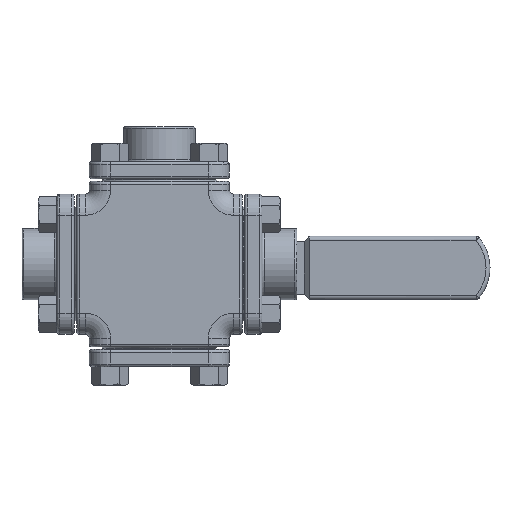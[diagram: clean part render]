
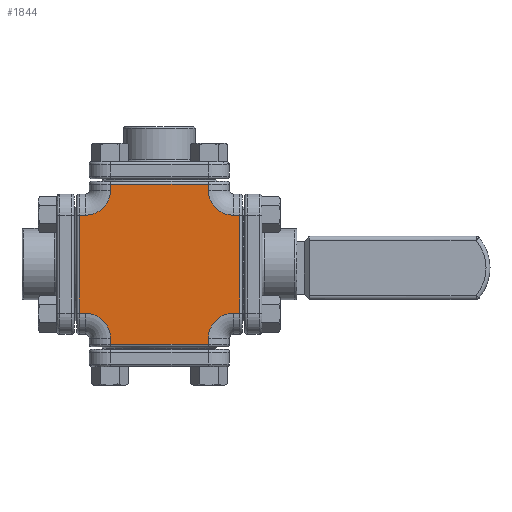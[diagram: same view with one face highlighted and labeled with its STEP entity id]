
A CAD part, front view. The second image highlights one B-rep face of the part: STEP entity #1844.
In plain terms, the highlighted planar face has unit normal (0, -1, 0).
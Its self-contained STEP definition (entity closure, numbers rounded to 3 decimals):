
#1790 = ORIENTED_EDGE ( 'NONE', *, *, #1791, .T. ) ;
#1791 = EDGE_CURVE ( 'NONE', #1879, #1792, #6927, .T. ) ;
#1792 = VERTEX_POINT ( 'NONE', #6923 ) ;
#1793 = ORIENTED_EDGE ( 'NONE', *, *, #1794, .T. ) ;
#1794 = EDGE_CURVE ( 'NONE', #1792, #1795, #6922, .T. ) ;
#1795 = VERTEX_POINT ( 'NONE', #6918 ) ;
#1796 = ORIENTED_EDGE ( 'NONE', *, *, #1797, .T. ) ;
#1797 = EDGE_CURVE ( 'NONE', #1795, #1846, #6917, .T. ) ;
#1800 = VERTEX_POINT ( 'NONE', #6910 ) ;
#1803 = ORIENTED_EDGE ( 'NONE', *, *, #1804, .T. ) ;
#1804 = EDGE_CURVE ( 'NONE', #1821, #1805, #6966, .T. ) ;
#1805 = VERTEX_POINT ( 'NONE', #6961 ) ;
#1807 = ORIENTED_EDGE ( 'NONE', *, *, #1808, .T. ) ;
#1808 = EDGE_CURVE ( 'NONE', #1852, #1809, #6955, .T. ) ;
#1809 = VERTEX_POINT ( 'NONE', #6951 ) ;
#1810 = ORIENTED_EDGE ( 'NONE', *, *, #1811, .T. ) ;
#1811 = EDGE_CURVE ( 'NONE', #1809, #1812, #6950, .T. ) ;
#1812 = VERTEX_POINT ( 'NONE', #6945 ) ;
#1813 = ORIENTED_EDGE ( 'NONE', *, *, #1814, .T. ) ;
#1814 = EDGE_CURVE ( 'NONE', #1812, #1815, #6944, .T. ) ;
#1815 = VERTEX_POINT ( 'NONE', #6939 ) ;
#1816 = ORIENTED_EDGE ( 'NONE', *, *, #1817, .T. ) ;
#1817 = EDGE_CURVE ( 'NONE', #1815, #1818, #6940, .T. ) ;
#1818 = VERTEX_POINT ( 'NONE', #6997 ) ;
#1819 = ORIENTED_EDGE ( 'NONE', *, *, #1820, .T. ) ;
#1820 = EDGE_CURVE ( 'NONE', #1818, #1821, #6996, .T. ) ;
#1821 = VERTEX_POINT ( 'NONE', #6992 ) ;
#1831 = VERTEX_POINT ( 'NONE', #6980 ) ;
#1832 = VERTEX_POINT ( 'NONE', #6979 ) ;
#1844 = ADVANCED_FACE ( 'NONE', ( #7020 ), #7019, .F. ) ;
#1845 = ORIENTED_EDGE ( 'NONE', *, *, #1848, .T. ) ;
#1846 = VERTEX_POINT ( 'NONE', #7014 ) ;
#1847 = EDGE_LOOP ( 'NONE', ( #1845, #1857, #1859, #1861, #1863, #1850, #1807, #1810, #1813, #1816, #1819, #1803, #1877, #1790, #1793, #1796 ) ) ;
#1848 = EDGE_CURVE ( 'NONE', #1846, #1831, #7013, .T. ) ;
#1849 = EDGE_CURVE ( 'NONE', #1865, #1864, #7009, .T. ) ;
#1850 = ORIENTED_EDGE ( 'NONE', *, *, #1851, .T. ) ;
#1851 = EDGE_CURVE ( 'NONE', #1864, #1852, #7005, .T. ) ;
#1852 = VERTEX_POINT ( 'NONE', #7001 ) ;
#1857 = ORIENTED_EDGE ( 'NONE', *, *, #1858, .T. ) ;
#1858 = EDGE_CURVE ( 'NONE', #1831, #1800, #7053, .T. ) ;
#1859 = ORIENTED_EDGE ( 'NONE', *, *, #1860, .T. ) ;
#1860 = EDGE_CURVE ( 'NONE', #1800, #1832, #7049, .T. ) ;
#1861 = ORIENTED_EDGE ( 'NONE', *, *, #1862, .T. ) ;
#1862 = EDGE_CURVE ( 'NONE', #1832, #1865, #7045, .T. ) ;
#1863 = ORIENTED_EDGE ( 'NONE', *, *, #1849, .T. ) ;
#1864 = VERTEX_POINT ( 'NONE', #7040 ) ;
#1865 = VERTEX_POINT ( 'NONE', #7039 ) ;
#1877 = ORIENTED_EDGE ( 'NONE', *, *, #1878, .T. ) ;
#1878 = EDGE_CURVE ( 'NONE', #1805, #1879, #7085, .T. ) ;
#1879 = VERTEX_POINT ( 'NONE', #7081 ) ;
#6910 = CARTESIAN_POINT ( 'NONE',  ( 30.3, -26.5, 18.5 ) ) ;
#6913 = DIRECTION ( 'NONE',  ( 0., 0., 1. ) ) ;
#6914 = DIRECTION ( 'NONE',  ( 0., 1., 0. ) ) ;
#6915 = CARTESIAN_POINT ( 'NONE',  ( 28., -26.5, -28. ) ) ;
#6916 = AXIS2_PLACEMENT_3D ( 'NONE', #6915, #6914, #6913 ) ;
#6917 = CIRCLE ( 'NONE', #6916, 9.5 ) ;
#6918 = CARTESIAN_POINT ( 'NONE',  ( 18.5, -26.5, -28. ) ) ;
#6919 = DIRECTION ( 'NONE',  ( 0., 0., 1. ) ) ;
#6920 = VECTOR ( 'NONE', #6919, 1000. ) ;
#6921 = CARTESIAN_POINT ( 'NONE',  ( 18.5, -26.5, 0. ) ) ;
#6922 = LINE ( 'NONE', #6921, #6920 ) ;
#6923 = CARTESIAN_POINT ( 'NONE',  ( 18.5, -26.5, -30.3 ) ) ;
#6924 = DIRECTION ( 'NONE',  ( 1., 0., 0. ) ) ;
#6925 = VECTOR ( 'NONE', #6924, 1000. ) ;
#6926 = CARTESIAN_POINT ( 'NONE',  ( -69.001, -26.5, -30.3 ) ) ;
#6927 = LINE ( 'NONE', #6926, #6925 ) ;
#6939 = CARTESIAN_POINT ( 'NONE',  ( -30.3, -26.5, 18.5 ) ) ;
#6940 = LINE ( 'NONE', #8036, #6999 ) ;
#6941 = DIRECTION ( 'NONE',  ( -1., 0., 0. ) ) ;
#6942 = VECTOR ( 'NONE', #6941, 1000. ) ;
#6943 = CARTESIAN_POINT ( 'NONE',  ( -31.3, -26.5, 18.5 ) ) ;
#6944 = LINE ( 'NONE', #6943, #6942 ) ;
#6945 = CARTESIAN_POINT ( 'NONE',  ( -28., -26.5, 18.5 ) ) ;
#6946 = DIRECTION ( 'NONE',  ( 0., 0., 1. ) ) ;
#6947 = DIRECTION ( 'NONE',  ( 0., 1., 0. ) ) ;
#6948 = CARTESIAN_POINT ( 'NONE',  ( -28., -26.5, 28. ) ) ;
#6949 = AXIS2_PLACEMENT_3D ( 'NONE', #6948, #6947, #6946 ) ;
#6950 = CIRCLE ( 'NONE', #6949, 9.5 ) ;
#6951 = CARTESIAN_POINT ( 'NONE',  ( -18.5, -26.5, 28. ) ) ;
#6952 = DIRECTION ( 'NONE',  ( 0., 0., -1. ) ) ;
#6953 = VECTOR ( 'NONE', #6952, 1000. ) ;
#6954 = CARTESIAN_POINT ( 'NONE',  ( -18.5, -26.5, 28. ) ) ;
#6955 = LINE ( 'NONE', #6954, #6953 ) ;
#6961 = CARTESIAN_POINT ( 'NONE',  ( -18.5, -26.5, -28. ) ) ;
#6962 = DIRECTION ( 'NONE',  ( 0., 0., 1. ) ) ;
#6963 = DIRECTION ( 'NONE',  ( 0., 1., 0. ) ) ;
#6964 = CARTESIAN_POINT ( 'NONE',  ( -28., -26.5, -28. ) ) ;
#6965 = AXIS2_PLACEMENT_3D ( 'NONE', #6964, #6963, #6962 ) ;
#6966 = CIRCLE ( 'NONE', #6965, 9.5 ) ;
#6979 = CARTESIAN_POINT ( 'NONE',  ( 28., -26.5, 18.5 ) ) ;
#6980 = CARTESIAN_POINT ( 'NONE',  ( 30.3, -26.5, -18.5 ) ) ;
#6992 = CARTESIAN_POINT ( 'NONE',  ( -28., -26.5, -18.5 ) ) ;
#6993 = DIRECTION ( 'NONE',  ( 1., 0., 0. ) ) ;
#6994 = VECTOR ( 'NONE', #6993, 1000. ) ;
#6995 = CARTESIAN_POINT ( 'NONE',  ( -69.001, -26.5, -18.5 ) ) ;
#6996 = LINE ( 'NONE', #6995, #6994 ) ;
#6997 = CARTESIAN_POINT ( 'NONE',  ( -30.3, -26.5, -18.5 ) ) ;
#6998 = DIRECTION ( 'NONE',  ( 0., 0., -1. ) ) ;
#6999 = VECTOR ( 'NONE', #6998, 1000. ) ;
#7001 = CARTESIAN_POINT ( 'NONE',  ( -18.5, -26.5, 30.3 ) ) ;
#7002 = DIRECTION ( 'NONE',  ( -1., 0., 0. ) ) ;
#7003 = VECTOR ( 'NONE', #7002, 1000. ) ;
#7004 = CARTESIAN_POINT ( 'NONE',  ( -18.5, -26.5, 30.3 ) ) ;
#7005 = LINE ( 'NONE', #7004, #7003 ) ;
#7006 = DIRECTION ( 'NONE',  ( 0., 0., 1. ) ) ;
#7007 = VECTOR ( 'NONE', #7006, 1000. ) ;
#7008 = CARTESIAN_POINT ( 'NONE',  ( 18.5, -26.5, 0. ) ) ;
#7009 = LINE ( 'NONE', #7008, #7007 ) ;
#7010 = DIRECTION ( 'NONE',  ( 1., 0., 0. ) ) ;
#7011 = VECTOR ( 'NONE', #7010, 1000. ) ;
#7012 = CARTESIAN_POINT ( 'NONE',  ( -69.001, -26.5, -18.5 ) ) ;
#7013 = LINE ( 'NONE', #7012, #7011 ) ;
#7014 = CARTESIAN_POINT ( 'NONE',  ( 28., -26.5, -18.5 ) ) ;
#7015 = DIRECTION ( 'NONE',  ( 0., 0., 1. ) ) ;
#7016 = DIRECTION ( 'NONE',  ( 0., 1., 0. ) ) ;
#7017 = CARTESIAN_POINT ( 'NONE',  ( -69.001, -26.5, 0. ) ) ;
#7018 = AXIS2_PLACEMENT_3D ( 'NONE', #7017, #7016, #7015 ) ;
#7019 = PLANE ( 'NONE',  #7018 ) ;
#7020 = FACE_OUTER_BOUND ( 'NONE', #1847, .T. ) ;
#7039 = CARTESIAN_POINT ( 'NONE',  ( 18.5, -26.5, 28. ) ) ;
#7040 = CARTESIAN_POINT ( 'NONE',  ( 18.5, -26.5, 30.3 ) ) ;
#7041 = DIRECTION ( 'NONE',  ( 0., 0., 1. ) ) ;
#7042 = DIRECTION ( 'NONE',  ( 0., 1., 0. ) ) ;
#7043 = CARTESIAN_POINT ( 'NONE',  ( 28., -26.5, 28. ) ) ;
#7044 = AXIS2_PLACEMENT_3D ( 'NONE', #7043, #7042, #7041 ) ;
#7045 = CIRCLE ( 'NONE', #7044, 9.5 ) ;
#7046 = DIRECTION ( 'NONE',  ( -1., 0., 0. ) ) ;
#7047 = VECTOR ( 'NONE', #7046, 1000. ) ;
#7048 = CARTESIAN_POINT ( 'NONE',  ( 28., -26.5, 18.5 ) ) ;
#7049 = LINE ( 'NONE', #7048, #7047 ) ;
#7050 = DIRECTION ( 'NONE',  ( 0., 0., 1. ) ) ;
#7051 = VECTOR ( 'NONE', #7050, 1000. ) ;
#7052 = CARTESIAN_POINT ( 'NONE',  ( 30.3, -26.5, 0. ) ) ;
#7053 = LINE ( 'NONE', #7052, #7051 ) ;
#7081 = CARTESIAN_POINT ( 'NONE',  ( -18.5, -26.5, -30.3 ) ) ;
#7082 = DIRECTION ( 'NONE',  ( 0., 0., -1. ) ) ;
#7083 = VECTOR ( 'NONE', #7082, 1000. ) ;
#7084 = CARTESIAN_POINT ( 'NONE',  ( -18.5, -26.5, -31.3 ) ) ;
#7085 = LINE ( 'NONE', #7084, #7083 ) ;
#8036 = CARTESIAN_POINT ( 'NONE',  ( -30.3, -26.5, -18.5 ) ) ;
